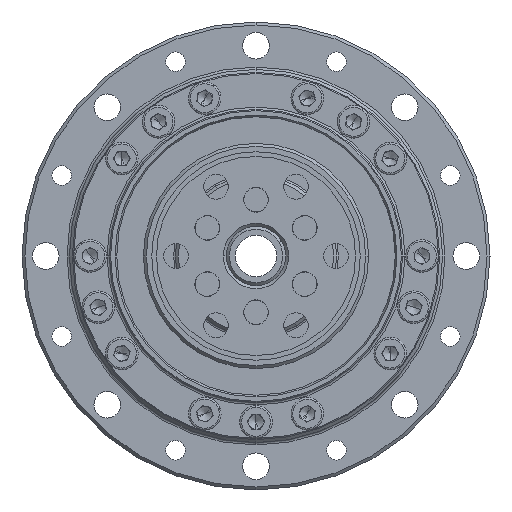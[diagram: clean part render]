
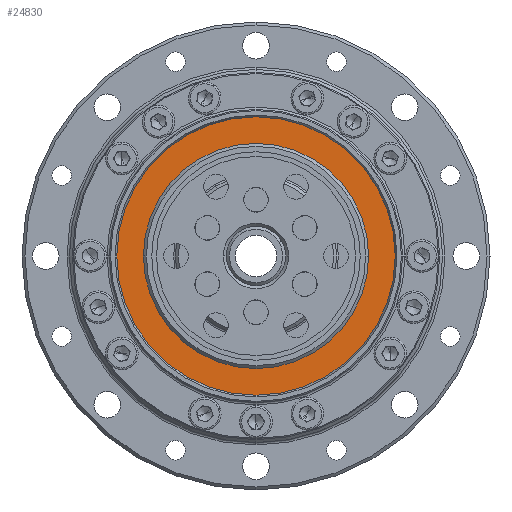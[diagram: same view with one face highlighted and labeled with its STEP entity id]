
A CAD part, left-side view. The second image highlights one B-rep face of the part: STEP entity #24830.
In plain terms, the highlighted planar face has unit normal (-1, 0, 0).
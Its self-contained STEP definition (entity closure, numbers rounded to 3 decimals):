
#1104 = DIRECTION ( 'NONE',  ( -1., 0., 0. ) ) ;
#1254 = AXIS2_PLACEMENT_3D ( 'NONE', #6959, #20533, #8924 ) ;
#1512 = ORIENTED_EDGE ( 'NONE', *, *, #12905, .F. ) ;
#1628 = ORIENTED_EDGE ( 'NONE', *, *, #6566, .T. ) ;
#1711 = EDGE_LOOP ( 'NONE', ( #24894, #1628 ) ) ;
#1868 = AXIS2_PLACEMENT_3D ( 'NONE', #17692, #6053, #19632 ) ;
#2016 = CARTESIAN_POINT ( 'NONE',  ( 1.559, 23.5, 0. ) ) ;
#2038 = EDGE_CURVE ( 'NONE', #11386, #4393, #8988, .T. ) ;
#2279 = CARTESIAN_POINT ( 'NONE',  ( 1.559, 0., 0. ) ) ;
#4235 = DIRECTION ( 'NONE',  ( 0., -1., 0. ) ) ;
#4393 = VERTEX_POINT ( 'NONE', #2016 ) ;
#5106 = AXIS2_PLACEMENT_3D ( 'NONE', #2279, #15858, #4235 ) ;
#5112 = VERTEX_POINT ( 'NONE', #23552 ) ;
#6053 = DIRECTION ( 'NONE',  ( -1., 0., 0. ) ) ;
#6138 = AXIS2_PLACEMENT_3D ( 'NONE', #12749, #1104, #14665 ) ;
#6566 = EDGE_CURVE ( 'NONE', #4393, #11386, #24046, .T. ) ;
#6959 = CARTESIAN_POINT ( 'NONE',  ( 1.559, 0., 0. ) ) ;
#8751 = FACE_BOUND ( 'NONE', #14831, .T. ) ;
#8924 = DIRECTION ( 'NONE',  ( 0., -1., 0. ) ) ;
#8988 = CIRCLE ( 'NONE', #1254, 23.5 ) ;
#9852 = VERTEX_POINT ( 'NONE', #10951 ) ;
#10377 = CARTESIAN_POINT ( 'NONE',  ( 1.559, -23.5, 0. ) ) ;
#10951 = CARTESIAN_POINT ( 'NONE',  ( 1.559, -19., 0. ) ) ;
#11386 = VERTEX_POINT ( 'NONE', #10377 ) ;
#12305 = AXIS2_PLACEMENT_3D ( 'NONE', #22903, #15089, #15177 ) ;
#12749 = CARTESIAN_POINT ( 'NONE',  ( 1.559, 0., 0. ) ) ;
#12905 = EDGE_CURVE ( 'NONE', #9852, #5112, #22368, .T. ) ;
#13236 = PLANE ( 'NONE',  #12305 ) ;
#13304 = FACE_OUTER_BOUND ( 'NONE', #1711, .T. ) ;
#14665 = DIRECTION ( 'NONE',  ( 0., -1., 0. ) ) ;
#14831 = EDGE_LOOP ( 'NONE', ( #1512, #21717 ) ) ;
#15089 = DIRECTION ( 'NONE',  ( 1., 0., 0. ) ) ;
#15177 = DIRECTION ( 'NONE',  ( 0., 1., 0. ) ) ;
#15858 = DIRECTION ( 'NONE',  ( -1., 0., 0. ) ) ;
#17692 = CARTESIAN_POINT ( 'NONE',  ( 1.559, 0., 0. ) ) ;
#18677 = EDGE_CURVE ( 'NONE', #5112, #9852, #22983, .T. ) ;
#19632 = DIRECTION ( 'NONE',  ( 0., -1., 0. ) ) ;
#20533 = DIRECTION ( 'NONE',  ( -1., 0., 0. ) ) ;
#21717 = ORIENTED_EDGE ( 'NONE', *, *, #18677, .F. ) ;
#22368 = CIRCLE ( 'NONE', #6138, 19. ) ;
#22903 = CARTESIAN_POINT ( 'NONE',  ( 1.559, 23.5, 0. ) ) ;
#22983 = CIRCLE ( 'NONE', #1868, 19. ) ;
#23552 = CARTESIAN_POINT ( 'NONE',  ( 1.559, 19., 0. ) ) ;
#24046 = CIRCLE ( 'NONE', #5106, 23.5 ) ;
#24830 = ADVANCED_FACE ( 'NONE', ( #8751, #13304 ), #13236, .F. ) ;
#24894 = ORIENTED_EDGE ( 'NONE', *, *, #2038, .T. ) ;
